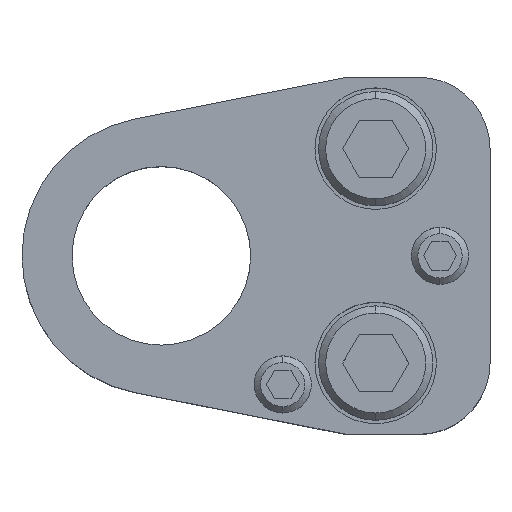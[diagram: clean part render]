
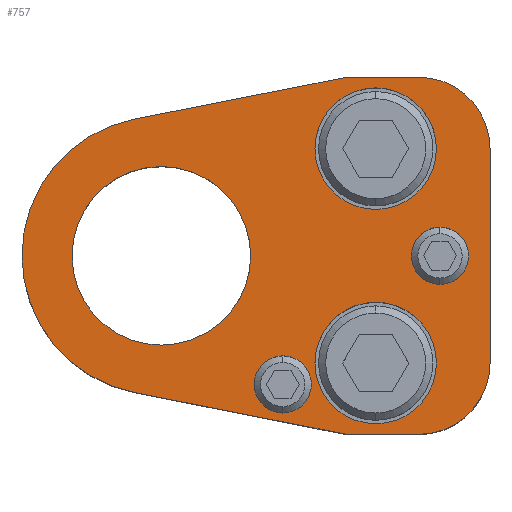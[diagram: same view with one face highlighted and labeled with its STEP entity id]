
A CAD part, top view. The second image highlights one B-rep face of the part: STEP entity #757.
In plain terms, the highlighted planar face has unit normal (0, 0, 1).
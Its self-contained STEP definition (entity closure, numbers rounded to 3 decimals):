
#428=LINE('',#3648,#598);
#433=LINE('',#3663,#603);
#437=LINE('',#3675,#607);
#442=LINE('',#3684,#612);
#447=LINE('',#3698,#617);
#598=VECTOR('',#2943,1.);
#603=VECTOR('',#2956,1.);
#607=VECTOR('',#2968,1.);
#612=VECTOR('',#2975,1.);
#617=VECTOR('',#2988,1.);
#757=ADVANCED_FACE('',(#863,#864,#865,#866,#867,#868),#834,.T.);
#834=PLANE('',#2455);
#863=FACE_BOUND('',#1003,.T.);
#864=FACE_BOUND('',#1004,.T.);
#865=FACE_BOUND('',#1005,.T.);
#866=FACE_BOUND('',#1006,.T.);
#867=FACE_BOUND('',#1007,.T.);
#868=FACE_BOUND('',#1008,.T.);
#1003=EDGE_LOOP('',(#1518,#1519,#1520,#1521,#1522,#1523,#1524,#1525));
#1004=EDGE_LOOP('',(#1526,#1527));
#1005=EDGE_LOOP('',(#1528,#1529));
#1006=EDGE_LOOP('',(#1530,#1531));
#1007=EDGE_LOOP('',(#1532,#1533));
#1008=EDGE_LOOP('',(#1534,#1535));
#1518=ORIENTED_EDGE('',*,*,#2038,.T.);
#1519=ORIENTED_EDGE('',*,*,#2020,.T.);
#1520=ORIENTED_EDGE('',*,*,#2024,.T.);
#1521=ORIENTED_EDGE('',*,*,#2027,.T.);
#1522=ORIENTED_EDGE('',*,*,#2030,.T.);
#1523=ORIENTED_EDGE('',*,*,#2033,.T.);
#1524=ORIENTED_EDGE('',*,*,#2045,.T.);
#1525=ORIENTED_EDGE('',*,*,#2041,.T.);
#1526=ORIENTED_EDGE('',*,*,#2080,.F.);
#1527=ORIENTED_EDGE('',*,*,#2081,.F.);
#1528=ORIENTED_EDGE('',*,*,#2082,.F.);
#1529=ORIENTED_EDGE('',*,*,#2083,.F.);
#1530=ORIENTED_EDGE('',*,*,#2070,.F.);
#1531=ORIENTED_EDGE('',*,*,#2066,.F.);
#1532=ORIENTED_EDGE('',*,*,#2064,.F.);
#1533=ORIENTED_EDGE('',*,*,#2060,.F.);
#1534=ORIENTED_EDGE('',*,*,#2084,.T.);
#1535=ORIENTED_EDGE('',*,*,#2085,.T.);
#1757=VERTEX_POINT('',#3647);
#1758=VERTEX_POINT('',#3649);
#1761=VERTEX_POINT('',#3656);
#1763=VERTEX_POINT('',#3662);
#1765=VERTEX_POINT('',#3668);
#1767=VERTEX_POINT('',#3674);
#1771=VERTEX_POINT('',#3685);
#1773=VERTEX_POINT('',#3691);
#1787=VERTEX_POINT('',#3733);
#1788=VERTEX_POINT('',#3734);
#1791=VERTEX_POINT('',#3745);
#1792=VERTEX_POINT('',#3746);
#1799=VERTEX_POINT('',#3773);
#1800=VERTEX_POINT('',#3774);
#1801=VERTEX_POINT('',#3777);
#1802=VERTEX_POINT('',#3778);
#1803=VERTEX_POINT('',#3781);
#1804=VERTEX_POINT('',#3782);
#2020=EDGE_CURVE('',#1758,#1757,#428,.T.);
#2024=EDGE_CURVE('',#1757,#1761,#2191,.T.);
#2027=EDGE_CURVE('',#1761,#1763,#433,.T.);
#2030=EDGE_CURVE('',#1763,#1765,#2193,.T.);
#2033=EDGE_CURVE('',#1765,#1767,#437,.T.);
#2038=EDGE_CURVE('',#1771,#1758,#442,.T.);
#2041=EDGE_CURVE('',#1773,#1771,#2196,.T.);
#2045=EDGE_CURVE('',#1767,#1773,#447,.T.);
#2060=EDGE_CURVE('',#1787,#1788,#2205,.T.);
#2064=EDGE_CURVE('',#1788,#1787,#2207,.T.);
#2066=EDGE_CURVE('',#1791,#1792,#2209,.T.);
#2070=EDGE_CURVE('',#1792,#1791,#2211,.T.);
#2080=EDGE_CURVE('',#1799,#1800,#2217,.T.);
#2081=EDGE_CURVE('',#1800,#1799,#2218,.T.);
#2082=EDGE_CURVE('',#1801,#1802,#2219,.T.);
#2083=EDGE_CURVE('',#1802,#1801,#2220,.T.);
#2084=EDGE_CURVE('',#1803,#1804,#2221,.T.);
#2085=EDGE_CURVE('',#1804,#1803,#2222,.T.);
#2191=CIRCLE('',#2406,10.);
#2193=CIRCLE('',#2410,10.);
#2196=CIRCLE('',#2416,19.5);
#2205=CIRCLE('',#2429,4.);
#2207=CIRCLE('',#2432,4.);
#2209=CIRCLE('',#2435,4.);
#2211=CIRCLE('',#2438,4.);
#2217=CIRCLE('',#2449,8.5);
#2218=CIRCLE('',#2450,8.5);
#2219=CIRCLE('',#2451,8.5);
#2220=CIRCLE('',#2452,8.5);
#2221=CIRCLE('',#2453,12.5);
#2222=CIRCLE('',#2454,12.5);
#2406=AXIS2_PLACEMENT_3D('',#3657,#2949,#2950);
#2410=AXIS2_PLACEMENT_3D('',#3669,#2961,#2962);
#2416=AXIS2_PLACEMENT_3D('',#3690,#2981,#2982);
#2429=AXIS2_PLACEMENT_3D('',#3732,#3016,#3017);
#2432=AXIS2_PLACEMENT_3D('',#3741,#3024,#3025);
#2435=AXIS2_PLACEMENT_3D('',#3744,#3030,#3031);
#2438=AXIS2_PLACEMENT_3D('',#3753,#3038,#3039);
#2449=AXIS2_PLACEMENT_3D('',#3772,#3064,#3065);
#2450=AXIS2_PLACEMENT_3D('',#3775,#3066,#3067);
#2451=AXIS2_PLACEMENT_3D('',#3776,#3068,#3069);
#2452=AXIS2_PLACEMENT_3D('',#3779,#3070,#3071);
#2453=AXIS2_PLACEMENT_3D('',#3780,#3072,#3073);
#2454=AXIS2_PLACEMENT_3D('',#3783,#3074,#3075);
#2455=AXIS2_PLACEMENT_3D('',#3784,#3076,#3077);
#2943=DIRECTION('',(1.,0.,0.));
#2949=DIRECTION('',(0.,0.,1.));
#2950=DIRECTION('',(-0.707,0.707,0.));
#2956=DIRECTION('',(0.,1.,0.));
#2961=DIRECTION('',(0.,0.,1.));
#2962=DIRECTION('',(-0.707,-0.707,0.));
#2968=DIRECTION('',(-1.,0.,0.));
#2975=DIRECTION('',(0.981,-0.193,0.));
#2981=DIRECTION('',(0.,0.,1.));
#2982=DIRECTION('',(1.,0.,0.));
#2988=DIRECTION('',(-0.981,-0.193,0.));
#3016=DIRECTION('',(0.,0.,1.));
#3017=DIRECTION('',(-1.,0.,0.));
#3024=DIRECTION('',(0.,0.,1.));
#3025=DIRECTION('',(1.,0.,0.));
#3030=DIRECTION('',(0.,0.,1.));
#3031=DIRECTION('',(-1.,0.,0.));
#3038=DIRECTION('',(0.,0.,1.));
#3039=DIRECTION('',(1.,0.,0.));
#3064=DIRECTION('',(0.,0.,1.));
#3065=DIRECTION('',(1.,0.,0.));
#3066=DIRECTION('',(0.,0.,1.));
#3067=DIRECTION('',(-1.,0.,0.));
#3068=DIRECTION('',(0.,0.,1.));
#3069=DIRECTION('',(1.,0.,0.));
#3070=DIRECTION('',(0.,0.,1.));
#3071=DIRECTION('',(-1.,0.,0.));
#3072=DIRECTION('',(0.,0.,-1.));
#3073=DIRECTION('',(-1.,0.,0.));
#3074=DIRECTION('',(0.,0.,-1.));
#3075=DIRECTION('',(1.,0.,0.));
#3076=DIRECTION('',(0.,0.,1.));
#3077=DIRECTION('',(0.981,-0.193,0.));
#3647=CARTESIAN_POINT('',(36.,-25.,30.));
#3648=CARTESIAN_POINT('',(26.,-25.,30.));
#3649=CARTESIAN_POINT('',(26.,-25.,30.));
#3656=CARTESIAN_POINT('',(46.,-15.,30.));
#3657=CARTESIAN_POINT('',(36.,-15.,30.));
#3662=CARTESIAN_POINT('',(46.,15.,30.));
#3663=CARTESIAN_POINT('',(46.,15.,30.));
#3668=CARTESIAN_POINT('',(36.,25.,30.));
#3669=CARTESIAN_POINT('',(36.,15.,30.));
#3674=CARTESIAN_POINT('',(26.,25.,30.));
#3675=CARTESIAN_POINT('',(26.,25.,30.));
#3684=CARTESIAN_POINT('',(26.,-25.,30.));
#3685=CARTESIAN_POINT('',(-3.771,-19.132,30.));
#3690=CARTESIAN_POINT('',(0.,0.,30.));
#3691=CARTESIAN_POINT('',(-3.771,19.132,30.));
#3698=CARTESIAN_POINT('',(26.,25.,30.));
#3732=CARTESIAN_POINT('',(17.,-18.,30.));
#3733=CARTESIAN_POINT('',(17.,-22.,30.));
#3734=CARTESIAN_POINT('',(17.,-14.,30.));
#3741=CARTESIAN_POINT('',(17.,-18.,30.));
#3744=CARTESIAN_POINT('',(39.,0.,30.));
#3745=CARTESIAN_POINT('',(39.,-4.,30.));
#3746=CARTESIAN_POINT('',(39.,4.,30.));
#3753=CARTESIAN_POINT('',(39.,0.,30.));
#3772=CARTESIAN_POINT('',(30.,15.,30.));
#3773=CARTESIAN_POINT('',(30.,23.5,30.));
#3774=CARTESIAN_POINT('',(30.,6.5,30.));
#3775=CARTESIAN_POINT('',(30.,15.,30.));
#3776=CARTESIAN_POINT('',(30.,-15.,30.));
#3777=CARTESIAN_POINT('',(30.,-6.5,30.));
#3778=CARTESIAN_POINT('',(30.,-23.5,30.));
#3779=CARTESIAN_POINT('',(30.,-15.,30.));
#3780=CARTESIAN_POINT('',(0.,0.,30.));
#3781=CARTESIAN_POINT('',(0.,12.5,30.));
#3782=CARTESIAN_POINT('',(0.,-12.5,30.));
#3783=CARTESIAN_POINT('',(0.,0.,30.));
#3784=CARTESIAN_POINT('',(-3.771,-19.132,30.));
